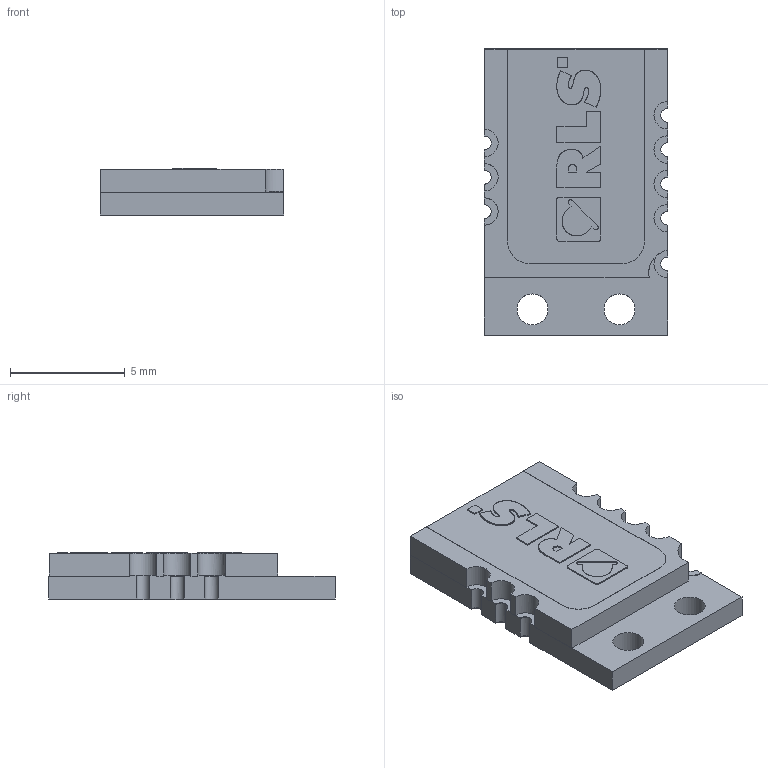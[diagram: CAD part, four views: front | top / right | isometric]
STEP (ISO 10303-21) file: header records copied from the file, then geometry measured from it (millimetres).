
FILE_DESCRIPTION(/* description */ ('STEP AP214'),/* implementation_level */ '2;1');
FILE_NAME(/* name */ 'METUPowerLab_Sensors_Encoders_RLC2HD.step',/* time_stamp */ '2025-09-01T23:14:53+03:00',/* author */ (''),/* organization */ (''),/* preprocessor_version */ 'ST-DEVELOPER v20.1',/* originating_system */ 'Autodesk Translation Framework v14.10.0.0',/* authorisation */ '');
FILE_SCHEMA (('AUTOMOTIVE_DESIGN { 1 0 10303 214 3 1 1 }'));
Length unit declared in the file: millimetre
Products named in the file (1): RLC_3D
Bounding box: 8 x 12.5 x 2.07 mm (x, y, z)
Volume: 171.3 mm3; surface area: 287.7 mm2
Topology: 1 solids, 1 shells, 1034 faces, 3039 edges, 2022 vertices
Faces by surface type: plane 980, cylinder 54
Full cylindrical faces by diameter (mm): 1.35 x2
Entity records: 33859 total; most frequent: CARTESIAN_POINT 6096, ORIENTED_EDGE 6078, DIRECTION 5224, EDGE_CURVE 3039, LINE 2924, VECTOR 2924, VERTEX_POINT 2022, AXIS2_PLACEMENT_3D 1150
